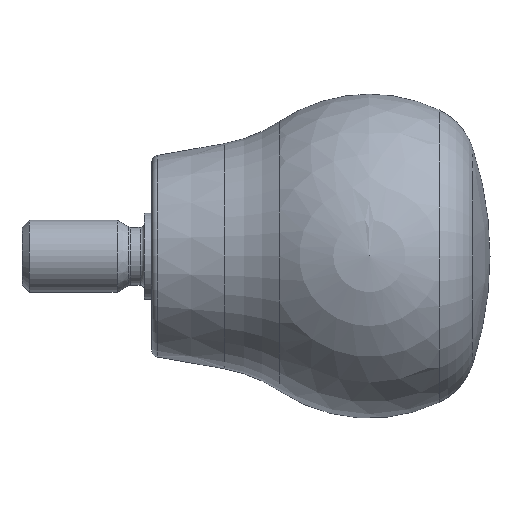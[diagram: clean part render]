
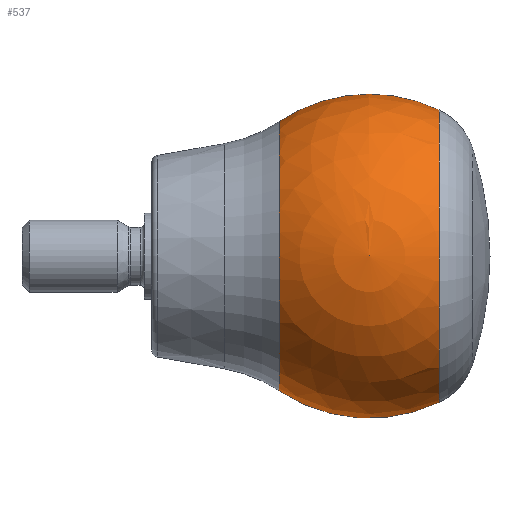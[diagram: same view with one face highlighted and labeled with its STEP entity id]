
A CAD part, top view. The second image highlights one B-rep face of the part: STEP entity #537.
In plain terms, the highlighted spherical face has radius 22.5 mm.
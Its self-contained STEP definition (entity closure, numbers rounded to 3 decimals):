
#33 = CARTESIAN_POINT ( 'NONE',  ( 31.24, 0., 0. ) ) ;
#42 = CIRCLE ( 'NONE', #1096, 18.704 ) ;
#70 = VERTEX_POINT ( 'NONE', #1010 ) ;
#84 = ORIENTED_EDGE ( 'NONE', *, *, #807, .T. ) ;
#147 = CARTESIAN_POINT ( 'NONE',  ( 18.734, 0., 0. ) ) ;
#186 = DIRECTION ( 'NONE',  ( -1., 0., 0. ) ) ;
#193 = CARTESIAN_POINT ( 'NONE',  ( 31.24, 0., 0. ) ) ;
#249 = EDGE_CURVE ( 'NONE', #1172, #704, #507, .T. ) ;
#320 = DIRECTION ( 'NONE',  ( 0., 0., 1. ) ) ;
#347 = DIRECTION ( 'NONE',  ( 0., -1., 0. ) ) ;
#362 = EDGE_CURVE ( 'NONE', #70, #1087, #545, .T. ) ;
#390 = EDGE_CURVE ( 'NONE', #1087, #704, #42, .T. ) ;
#419 = DIRECTION ( 'NONE',  ( 0., 0., -1. ) ) ;
#429 = AXIS2_PLACEMENT_3D ( 'NONE', #193, #759, #542 ) ;
#495 = EDGE_LOOP ( 'NONE', ( #616, #84, #972, #1079 ) ) ;
#507 = CIRCLE ( 'NONE', #585, 22.5 ) ;
#512 = CARTESIAN_POINT ( 'NONE',  ( 40.918, 20.312, 0. ) ) ;
#518 = SPHERICAL_SURFACE ( 'NONE', #1267, 22.5 ) ;
#537 = ADVANCED_FACE ( 'SPHERE_0', ( #614 ), #518, .T. ) ;
#542 = DIRECTION ( 'NONE',  ( 0., 1., 0. ) ) ;
#545 = CIRCLE ( 'NONE', #429, 22.5 ) ;
#555 = CARTESIAN_POINT ( 'NONE',  ( 31.24, 0., 0. ) ) ;
#585 = AXIS2_PLACEMENT_3D ( 'NONE', #555, #320, #1117 ) ;
#614 = FACE_OUTER_BOUND ( 'NONE', #495, .T. ) ;
#616 = ORIENTED_EDGE ( 'NONE', *, *, #362, .F. ) ;
#636 = CARTESIAN_POINT ( 'NONE',  ( 18.734, -18.704, 0. ) ) ;
#681 = CARTESIAN_POINT ( 'NONE',  ( 40.918, 0., 0. ) ) ;
#704 = VERTEX_POINT ( 'NONE', #855 ) ;
#759 = DIRECTION ( 'NONE',  ( 0., 0., -1. ) ) ;
#807 = EDGE_CURVE ( 'NONE', #70, #1172, #1052, .T. ) ;
#855 = CARTESIAN_POINT ( 'NONE',  ( 18.734, 18.704, 0. ) ) ;
#972 = ORIENTED_EDGE ( 'NONE', *, *, #249, .T. ) ;
#1010 = CARTESIAN_POINT ( 'NONE',  ( 40.918, -20.313, 0. ) ) ;
#1032 = AXIS2_PLACEMENT_3D ( 'NONE', #681, #186, #1290 ) ;
#1052 = CIRCLE ( 'NONE', #1032, 20.312 ) ;
#1079 = ORIENTED_EDGE ( 'NONE', *, *, #390, .F. ) ;
#1087 = VERTEX_POINT ( 'NONE', #636 ) ;
#1096 = AXIS2_PLACEMENT_3D ( 'NONE', #147, #1138, #347 ) ;
#1117 = DIRECTION ( 'NONE',  ( 1., 0., 0. ) ) ;
#1138 = DIRECTION ( 'NONE',  ( -1., 0., 0. ) ) ;
#1172 = VERTEX_POINT ( 'NONE', #512 ) ;
#1229 = DIRECTION ( 'NONE',  ( 0., 1., 0. ) ) ;
#1267 = AXIS2_PLACEMENT_3D ( 'NONE', #33, #419, #1229 ) ;
#1290 = DIRECTION ( 'NONE',  ( 0., -1., 0. ) ) ;
